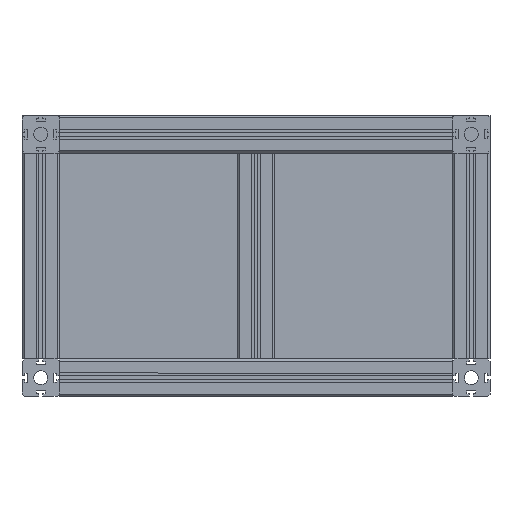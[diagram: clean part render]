
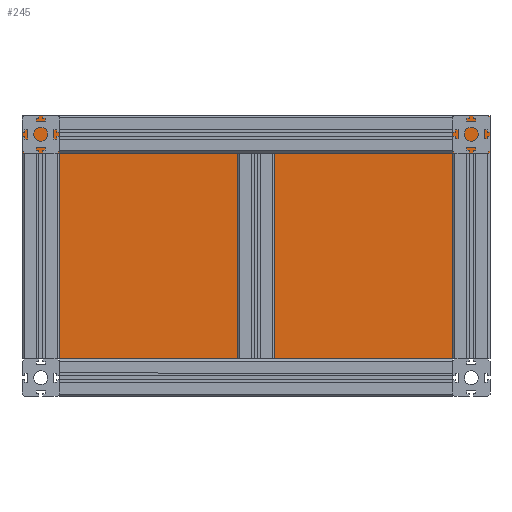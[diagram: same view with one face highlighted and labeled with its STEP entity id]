
A CAD part, left-side view. The second image highlights one B-rep face of the part: STEP entity #245.
In plain terms, the highlighted planar face has unit normal (-1, 0, 0).
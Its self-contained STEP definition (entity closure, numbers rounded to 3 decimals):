
#68=CARTESIAN_POINT('Line Origine',(0.,-460.,-220.)) ;
#72=CARTESIAN_POINT('Vertex',(0.,-500.,-220.)) ;
#74=CARTESIAN_POINT('Vertex',(0.,-420.,-220.)) ;
#119=CARTESIAN_POINT('Vertex',(0.,-500.,300.)) ;
#122=CARTESIAN_POINT('Line Origine',(0.,-500.,40.)) ;
#190=CARTESIAN_POINT('Axis2P3D Location',(0.,0.,0.)) ;
#195=CARTESIAN_POINT('Line Origine',(0.,-420.,-260.)) ;
#199=CARTESIAN_POINT('Vertex',(0.,-420.,-300.)) ;
#202=CARTESIAN_POINT('Line Origine',(0.,0.,300.)) ;
#206=CARTESIAN_POINT('Vertex',(0.,500.,300.)) ;
#209=CARTESIAN_POINT('Line Origine',(0.,500.,40.)) ;
#213=CARTESIAN_POINT('Vertex',(0.,500.,-220.)) ;
#216=CARTESIAN_POINT('Line Origine',(0.,460.,-220.)) ;
#220=CARTESIAN_POINT('Vertex',(0.,420.,-220.)) ;
#223=CARTESIAN_POINT('Line Origine',(0.,420.,-260.)) ;
#227=CARTESIAN_POINT('Vertex',(0.,420.,-300.)) ;
#230=CARTESIAN_POINT('Line Origine',(0.,0.,-300.)) ;
#69=DIRECTION('Vector Direction',(0.,1.,0.)) ;
#123=DIRECTION('Vector Direction',(0.,0.,-1.)) ;
#191=DIRECTION('Axis2P3D Direction',(1.,0.,0.)) ;
#192=DIRECTION('Axis2P3D XDirection',(0.,1.,0.)) ;
#196=DIRECTION('Vector Direction',(0.,0.,1.)) ;
#203=DIRECTION('Vector Direction',(0.,1.,0.)) ;
#210=DIRECTION('Vector Direction',(0.,0.,1.)) ;
#217=DIRECTION('Vector Direction',(0.,-1.,0.)) ;
#224=DIRECTION('Vector Direction',(0.,0.,1.)) ;
#231=DIRECTION('Vector Direction',(0.,-1.,0.)) ;
#193=AXIS2_PLACEMENT_3D('Plane Axis2P3D',#190,#191,#192) ;
#236=ORIENTED_EDGE('',*,*,#201,.T.) ;
#237=ORIENTED_EDGE('',*,*,#76,.F.) ;
#238=ORIENTED_EDGE('',*,*,#126,.F.) ;
#239=ORIENTED_EDGE('',*,*,#208,.F.) ;
#240=ORIENTED_EDGE('',*,*,#215,.F.) ;
#241=ORIENTED_EDGE('',*,*,#222,.T.) ;
#242=ORIENTED_EDGE('',*,*,#229,.F.) ;
#243=ORIENTED_EDGE('',*,*,#234,.F.) ;
#70=VECTOR('Line Direction',#69,1.) ;
#124=VECTOR('Line Direction',#123,1.) ;
#197=VECTOR('Line Direction',#196,1.) ;
#204=VECTOR('Line Direction',#203,1.) ;
#211=VECTOR('Line Direction',#210,1.) ;
#218=VECTOR('Line Direction',#217,1.) ;
#225=VECTOR('Line Direction',#224,1.) ;
#232=VECTOR('Line Direction',#231,1.) ;
#245=ADVANCED_FACE('\X2\96F64EF651E04F554F53\X0\',(#244),#194,.F.) ;
#76=EDGE_CURVE('',#73,#75,#71,.T.) ;
#126=EDGE_CURVE('',#120,#73,#125,.T.) ;
#201=EDGE_CURVE('',#200,#75,#198,.T.) ;
#208=EDGE_CURVE('',#207,#120,#205,.F.) ;
#215=EDGE_CURVE('',#214,#207,#212,.T.) ;
#222=EDGE_CURVE('',#214,#221,#219,.T.) ;
#229=EDGE_CURVE('',#228,#221,#226,.T.) ;
#234=EDGE_CURVE('',#200,#228,#233,.F.) ;
#235=EDGE_LOOP('',(#236,#237,#238,#239,#240,#241,#242,#243)) ;
#244=FACE_OUTER_BOUND('',#235,.T.) ;
#71=LINE('Line',#68,#70) ;
#125=LINE('Line',#122,#124) ;
#198=LINE('Line',#195,#197) ;
#205=LINE('Line',#202,#204) ;
#212=LINE('Line',#209,#211) ;
#219=LINE('Line',#216,#218) ;
#226=LINE('Line',#223,#225) ;
#233=LINE('Line',#230,#232) ;
#194=PLANE('Plane',#193) ;
#73=VERTEX_POINT('',#72) ;
#75=VERTEX_POINT('',#74) ;
#120=VERTEX_POINT('',#119) ;
#200=VERTEX_POINT('',#199) ;
#207=VERTEX_POINT('',#206) ;
#214=VERTEX_POINT('',#213) ;
#221=VERTEX_POINT('',#220) ;
#228=VERTEX_POINT('',#227) ;
